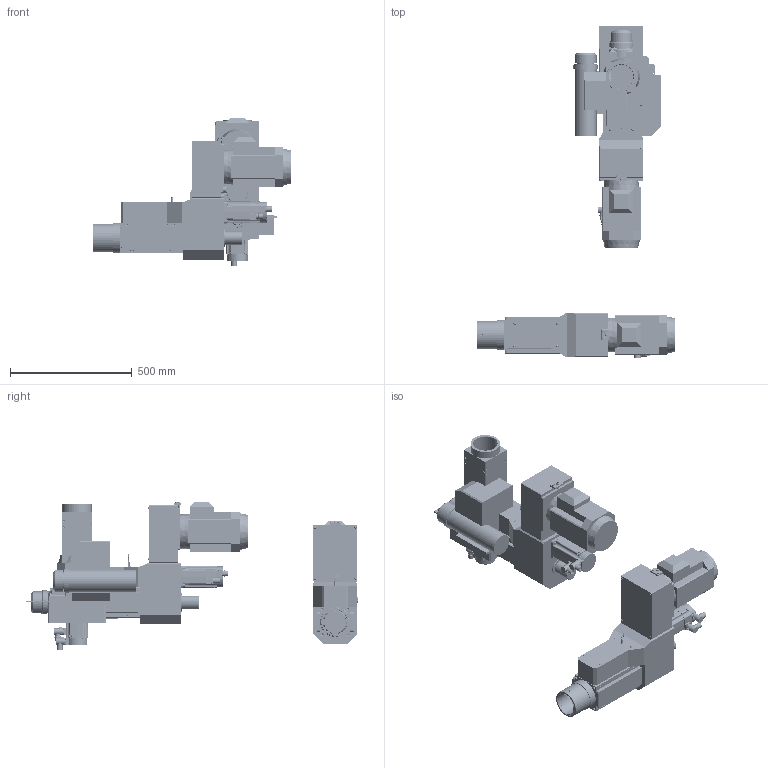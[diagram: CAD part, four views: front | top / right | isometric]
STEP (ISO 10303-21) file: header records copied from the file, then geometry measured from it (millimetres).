
FILE_DESCRIPTION( ( 'STEP AP203' ), '1' );
FILE_NAME( 'C:/Documents and Settings/Saverio/Desktop/disegni ironcad/unità serie 2/FMT 232 CN/FMT 232 CN_ABS50.stp', '2013-11-29T08:57:42', ( ' ' ), ( ' ' ), 'XStep 1.0', ' ', ' ' );
FILE_SCHEMA( ( 'CONFIG_CONTROL_DESIGN' ) );
Length unit declared in the file: metre
Products named in the file (40): Assem1; Assem2; Assem3; 1; 2; 3; 4; 5; 6; 7; 8; 9; 10; 11; 12; 13; 14; 15; 16; 17; 18; 19; 20; 21; 22; 23; 24; 25; 26; 27; 28; 29; 30; 31; 32; 33; 34; 35; 36; 37
Bounding box: 814.5 x 1362.82 x 609 mm (x, y, z)
Volume: 84524852.9 mm3; surface area: 5399023.8 mm2
Topology: 131 solids, 134 shells, 4647 faces, 11565 edges, 7535 vertices
Faces by surface type: plane 2267, cylinder 1615, cone 607, torus 86, bspline 72
Full cylindrical faces by diameter (mm): 1 x18, 2 x12, 3 x6, 4 x23, 4.2 x15, 4.5 x48, 4.918 x6, 5 x27, 5.5 x12, 6 x30, 6.5 x3, 7 x53, 7.4 x24, 8 x30, 8.5 x12, 9.87 x3, 10 x9, 13.5 x12, 18.3 x3, 19 x3, 19.2 x3, 20 x21, 21.7 x6, 22.7 x6, 25 x3, 26.7 x6, 28 x3, 35 x3, 42 x3, 42.5 x3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
Entity records: 45713 total; most frequent: CARTESIAN_POINT 10967, DIRECTION 6956, ORIENTED_EDGE 6266, EDGE_CURVE 3133, AXIS2_PLACEMENT_3D 2692, VERTEX_POINT 2250, EDGE_LOOP 1976, FACE_OUTER_BOUND 1636
